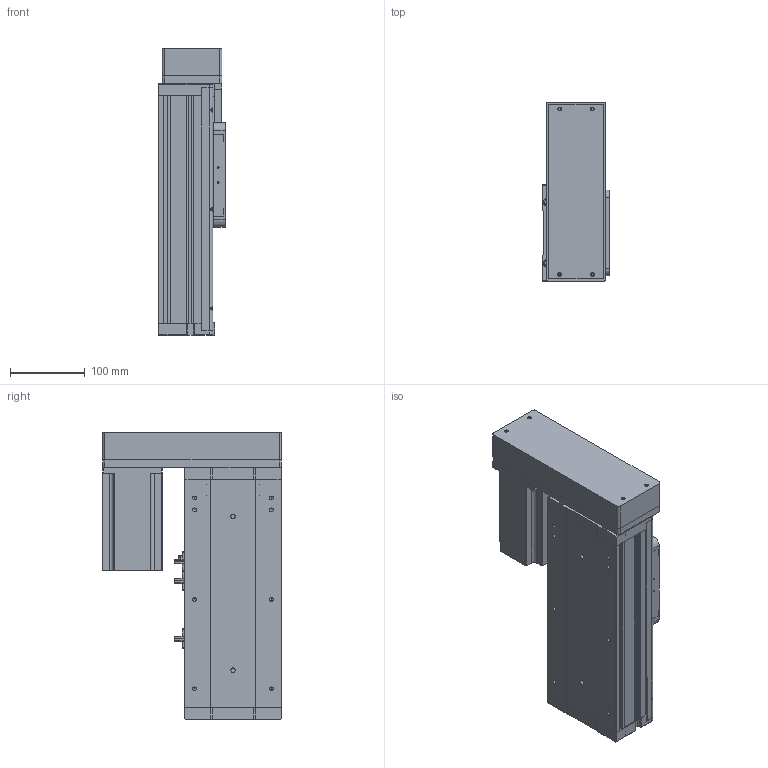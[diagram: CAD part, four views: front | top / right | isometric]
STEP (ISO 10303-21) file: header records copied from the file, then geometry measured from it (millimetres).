
FILE_DESCRIPTION (( 'STEP AP214' ), '1' );
FILE_NAME ('KSD130S-P2010-ML-CR-S100.STEP', '2019-09-24T03:38:19', ( '微软用户' ), ( '微软中国' ), 'SwSTEP 2.0', 'SolidWorks 2014', '' );
FILE_SCHEMA (( 'AUTOMOTIVE_DESIGN' ));
Length unit declared in the file: millimetre
Products named in the file (14): 130宽侧板全封闭-100行程; 130宽全封闭马达安装板丝杠; 130宽全封闭端盖丝杠; 130宽底板全封闭丝杠-100行程; KSD130S-P2010-ML-CR-S100; 130宽模组马达安装板连板左右折丝杆; 感应片130宽全封闭; U倰嫖萇EEㄜSX672; 台达ECMA－C20807AS伺服电机; 130宽模组保护罩左右折; 130遵裔啣揤啣1; 130宽盖板全封闭-100行程; 130宽滚珠螺姆安装板1防护罩; 130宽滚珠螺姆安装板1
Assembly tree (17 placements, depth 2):
  KSD130S-P2010-ML-CR-S100
    130宽底板全封闭丝杠-100行程
    130宽全封闭端盖丝杠
    130宽全封闭马达安装板丝杠
    130宽侧板全封闭-100行程  x2
    130宽滚珠螺姆安装板1
    130宽滚珠螺姆安装板1防护罩
    130宽盖板全封闭-100行程
    130遵裔啣揤啣1  x2
    U倰嫖萇EEㄜSX672  x3
    感应片130宽全封闭
    130宽模组马达安装板连板左右折丝杆
    台达ECMA－C20807AS伺服电机
    130宽模组保护罩左右折
Bounding box: 90 x 240 x 384.5 mm (x, y, z)
Volume: 2265133.1 mm3; surface area: 635123.1 mm2
Topology: 18 solids, 18 shells, 1358 faces, 3716 edges, 2371 vertices
Faces by surface type: plane 611, cylinder 584, cone 163
Entity records: 40878 total; most frequent: DIRECTION 6207, CARTESIAN_POINT 6191, ORIENTED_EDGE 5814, EDGE_CURVE 2907, AXIS2_PLACEMENT_3D 2203, VERTEX_POINT 1901, VECTOR 1801, LINE 1801
